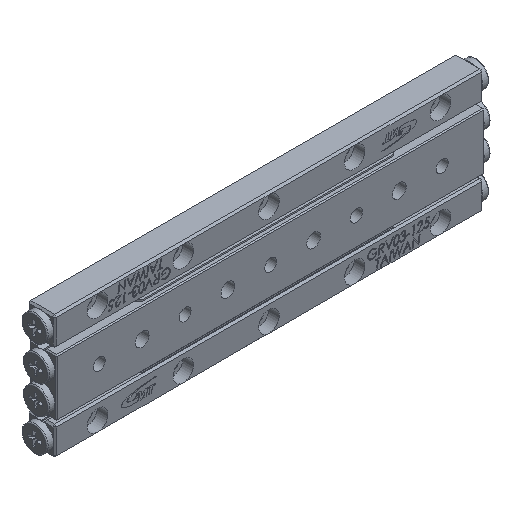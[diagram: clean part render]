
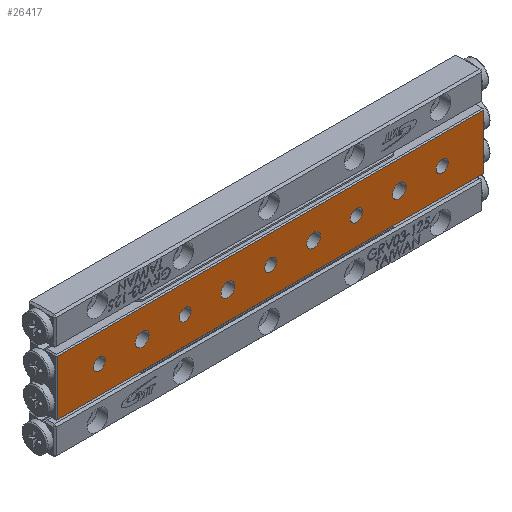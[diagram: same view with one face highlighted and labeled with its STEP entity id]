
A CAD part, isometric view. The second image highlights one B-rep face of the part: STEP entity #26417.
In plain terms, the highlighted planar face has unit normal (0, -1, 0).
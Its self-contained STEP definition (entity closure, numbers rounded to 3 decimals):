
#50 = CARTESIAN_POINT ( 'NONE',  ( -25., 0., 1.75 ) ) ;
#86 = ORIENTED_EDGE ( 'NONE', *, *, #15599, .T. ) ;
#201 = AXIS2_PLACEMENT_3D ( 'NONE', #28750, #31985, #9222 ) ;
#397 = AXIS2_PLACEMENT_3D ( 'NONE', #35226, #37706, #35406 ) ;
#951 = ORIENTED_EDGE ( 'NONE', *, *, #16828, .T. ) ;
#964 = CIRCLE ( 'NONE', #16281, 2. ) ;
#1331 = EDGE_CURVE ( 'NONE', #16930, #16930, #16717, .T. ) ;
#1907 = FACE_BOUND ( 'NONE', #5562, .T. ) ;
#2562 = CIRCLE ( 'NONE', #15385, 1.75 ) ;
#2737 = CARTESIAN_POINT ( 'NONE',  ( 25., 0., 1.75 ) ) ;
#2825 = ORIENTED_EDGE ( 'NONE', *, *, #31251, .T. ) ;
#3554 = AXIS2_PLACEMENT_3D ( 'NONE', #37155, #22670, #11002 ) ;
#4375 = EDGE_CURVE ( 'NONE', #4843, #4843, #35198, .T. ) ;
#4780 = VECTOR ( 'NONE', #8862, 1000. ) ;
#4843 = VERTEX_POINT ( 'NONE', #33717 ) ;
#5159 = FACE_BOUND ( 'NONE', #7951, .T. ) ;
#5562 = EDGE_LOOP ( 'NONE', ( #10691 ) ) ;
#5800 = CARTESIAN_POINT ( 'NONE',  ( -50., 0., 1.75 ) ) ;
#7651 = FACE_OUTER_BOUND ( 'NONE', #19875, .T. ) ;
#7839 = FACE_BOUND ( 'NONE', #26000, .T. ) ;
#7862 = ORIENTED_EDGE ( 'NONE', *, *, #13510, .T. ) ;
#7905 = VERTEX_POINT ( 'NONE', #26673 ) ;
#7951 = EDGE_LOOP ( 'NONE', ( #951 ) ) ;
#8432 = EDGE_LOOP ( 'NONE', ( #14301 ) ) ;
#8628 = CARTESIAN_POINT ( 'NONE',  ( -62.5, 0., -8. ) ) ;
#8666 = VERTEX_POINT ( 'NONE', #5800 ) ;
#8862 = DIRECTION ( 'NONE',  ( 0., 0., -1. ) ) ;
#9222 = DIRECTION ( 'NONE',  ( 0., 0., 1. ) ) ;
#9323 = ORIENTED_EDGE ( 'NONE', *, *, #1331, .T. ) ;
#9363 = EDGE_LOOP ( 'NONE', ( #29957 ) ) ;
#10067 = VERTEX_POINT ( 'NONE', #37342 ) ;
#10447 = VERTEX_POINT ( 'NONE', #19759 ) ;
#10540 = FACE_BOUND ( 'NONE', #8432, .T. ) ;
#10691 = ORIENTED_EDGE ( 'NONE', *, *, #20961, .T. ) ;
#10743 = CARTESIAN_POINT ( 'NONE',  ( -62.5, 0., 8. ) ) ;
#11002 = DIRECTION ( 'NONE',  ( 0., 0., 1. ) ) ;
#11537 = AXIS2_PLACEMENT_3D ( 'NONE', #19606, #25551, #16367 ) ;
#11767 = CARTESIAN_POINT ( 'NONE',  ( 0., 0., 0. ) ) ;
#12516 = AXIS2_PLACEMENT_3D ( 'NONE', #24691, #36497, #30417 ) ;
#13423 = DIRECTION ( 'NONE',  ( 0., 0., 1. ) ) ;
#13510 = EDGE_CURVE ( 'NONE', #36955, #36955, #24737, .T. ) ;
#13640 = ORIENTED_EDGE ( 'NONE', *, *, #21229, .T. ) ;
#13743 = EDGE_LOOP ( 'NONE', ( #86 ) ) ;
#13827 = AXIS2_PLACEMENT_3D ( 'NONE', #31188, #22032, #13423 ) ;
#13952 = VECTOR ( 'NONE', #17265, 1000. ) ;
#14222 = VERTEX_POINT ( 'NONE', #20354 ) ;
#14301 = ORIENTED_EDGE ( 'NONE', *, *, #28852, .T. ) ;
#14807 = CARTESIAN_POINT ( 'NONE',  ( 0., 0., 1.75 ) ) ;
#15385 = AXIS2_PLACEMENT_3D ( 'NONE', #11767, #29159, #29527 ) ;
#15599 = EDGE_CURVE ( 'NONE', #7905, #7905, #964, .T. ) ;
#16281 = AXIS2_PLACEMENT_3D ( 'NONE', #26563, #32452, #20637 ) ;
#16367 = DIRECTION ( 'NONE',  ( 0., 0., 1. ) ) ;
#16661 = FACE_BOUND ( 'NONE', #35320, .T. ) ;
#16717 = CIRCLE ( 'NONE', #201, 2. ) ;
#16828 = EDGE_CURVE ( 'NONE', #25907, #25907, #27935, .T. ) ;
#16930 = VERTEX_POINT ( 'NONE', #22081 ) ;
#17265 = DIRECTION ( 'NONE',  ( 1., 0., 0. ) ) ;
#19016 = EDGE_CURVE ( 'NONE', #10067, #34424, #31627, .T. ) ;
#19350 = PLANE ( 'NONE',  #20872 ) ;
#19491 = ORIENTED_EDGE ( 'NONE', *, *, #20984, .T. ) ;
#19534 = DIRECTION ( 'NONE',  ( 0., 1., 0. ) ) ;
#19606 = CARTESIAN_POINT ( 'NONE',  ( 25., 0., 0. ) ) ;
#19724 = FACE_BOUND ( 'NONE', #9363, .T. ) ;
#19759 = CARTESIAN_POINT ( 'NONE',  ( 62.2, 0., -8. ) ) ;
#19875 = EDGE_LOOP ( 'NONE', ( #29552, #13640, #2825, #25296 ) ) ;
#20354 = CARTESIAN_POINT ( 'NONE',  ( 50., 0., 1.75 ) ) ;
#20637 = DIRECTION ( 'NONE',  ( 0., 0., 1. ) ) ;
#20872 = AXIS2_PLACEMENT_3D ( 'NONE', #30991, #19534, #28320 ) ;
#20961 = EDGE_CURVE ( 'NONE', #23053, #23053, #29209, .T. ) ;
#20984 = EDGE_CURVE ( 'NONE', #14222, #14222, #24332, .T. ) ;
#21229 = EDGE_CURVE ( 'NONE', #34424, #10447, #22242, .T. ) ;
#22032 = DIRECTION ( 'NONE',  ( 0., 1., 0. ) ) ;
#22081 = CARTESIAN_POINT ( 'NONE',  ( -37.5, 0., 2. ) ) ;
#22086 = DIRECTION ( 'NONE',  ( 0., 0., 1. ) ) ;
#22242 = LINE ( 'NONE', #8628, #13952 ) ;
#22378 = CIRCLE ( 'NONE', #13827, 1.75 ) ;
#22472 = CARTESIAN_POINT ( 'NONE',  ( -12.5, 0., 2. ) ) ;
#22670 = DIRECTION ( 'NONE',  ( 0., 1., 0. ) ) ;
#23053 = VERTEX_POINT ( 'NONE', #2737 ) ;
#23553 = VERTEX_POINT ( 'NONE', #27916 ) ;
#23716 = LINE ( 'NONE', #26587, #34397 ) ;
#24332 = CIRCLE ( 'NONE', #3554, 1.75 ) ;
#24592 = DIRECTION ( 'NONE',  ( 0., 1., 0. ) ) ;
#24691 = CARTESIAN_POINT ( 'NONE',  ( -12.5, 0., 0. ) ) ;
#24737 = CIRCLE ( 'NONE', #12516, 2. ) ;
#25296 = ORIENTED_EDGE ( 'NONE', *, *, #27237, .T. ) ;
#25475 = FACE_BOUND ( 'NONE', #30342, .T. ) ;
#25551 = DIRECTION ( 'NONE',  ( 0., 1., 0. ) ) ;
#25843 = ORIENTED_EDGE ( 'NONE', *, *, #4375, .T. ) ;
#25907 = VERTEX_POINT ( 'NONE', #50 ) ;
#26000 = EDGE_LOOP ( 'NONE', ( #19491 ) ) ;
#26212 = DIRECTION ( 'NONE',  ( 0., 0., 1. ) ) ;
#26417 = ADVANCED_FACE ( 'NONE', ( #7651, #28133, #36693, #16661, #5159, #25475, #19724, #10540, #1907, #7839 ), #19350, .F. ) ;
#26563 = CARTESIAN_POINT ( 'NONE',  ( 37.5, 0., 0. ) ) ;
#26587 = CARTESIAN_POINT ( 'NONE',  ( 62.2, 0., 8.3 ) ) ;
#26673 = CARTESIAN_POINT ( 'NONE',  ( 37.5, 0., 2. ) ) ;
#27237 = EDGE_CURVE ( 'NONE', #23553, #10067, #27964, .T. ) ;
#27361 = EDGE_LOOP ( 'NONE', ( #25843 ) ) ;
#27916 = CARTESIAN_POINT ( 'NONE',  ( 62.2, 0., 8. ) ) ;
#27935 = CIRCLE ( 'NONE', #30974, 1.75 ) ;
#27964 = LINE ( 'NONE', #10743, #37288 ) ;
#28133 = FACE_BOUND ( 'NONE', #13743, .T. ) ;
#28320 = DIRECTION ( 'NONE',  ( 0., 0., 1. ) ) ;
#28750 = CARTESIAN_POINT ( 'NONE',  ( -37.5, 0., 0. ) ) ;
#28852 = EDGE_CURVE ( 'NONE', #37717, #37717, #2562, .T. ) ;
#29159 = DIRECTION ( 'NONE',  ( 0., 1., 0. ) ) ;
#29209 = CIRCLE ( 'NONE', #11537, 1.75 ) ;
#29527 = DIRECTION ( 'NONE',  ( 0., 0., 1. ) ) ;
#29552 = ORIENTED_EDGE ( 'NONE', *, *, #19016, .T. ) ;
#29957 = ORIENTED_EDGE ( 'NONE', *, *, #34784, .T. ) ;
#30342 = EDGE_LOOP ( 'NONE', ( #9323 ) ) ;
#30417 = DIRECTION ( 'NONE',  ( 0., 0., 1. ) ) ;
#30670 = CARTESIAN_POINT ( 'NONE',  ( -62.2, 0., -8. ) ) ;
#30974 = AXIS2_PLACEMENT_3D ( 'NONE', #36208, #24592, #22086 ) ;
#30991 = CARTESIAN_POINT ( 'NONE',  ( -62.5, 0., 8.3 ) ) ;
#31188 = CARTESIAN_POINT ( 'NONE',  ( -50., 0., 0. ) ) ;
#31251 = EDGE_CURVE ( 'NONE', #10447, #23553, #23716, .T. ) ;
#31627 = LINE ( 'NONE', #34681, #4780 ) ;
#31755 = DIRECTION ( 'NONE',  ( -1., 0., 0. ) ) ;
#31985 = DIRECTION ( 'NONE',  ( 0., 1., 0. ) ) ;
#32452 = DIRECTION ( 'NONE',  ( 0., 1., 0. ) ) ;
#33717 = CARTESIAN_POINT ( 'NONE',  ( 12.5, 0., 2. ) ) ;
#34397 = VECTOR ( 'NONE', #26212, 1000. ) ;
#34424 = VERTEX_POINT ( 'NONE', #30670 ) ;
#34681 = CARTESIAN_POINT ( 'NONE',  ( -62.2, 0., 8.3 ) ) ;
#34784 = EDGE_CURVE ( 'NONE', #8666, #8666, #22378, .T. ) ;
#35198 = CIRCLE ( 'NONE', #397, 2. ) ;
#35226 = CARTESIAN_POINT ( 'NONE',  ( 12.5, 0., 0. ) ) ;
#35320 = EDGE_LOOP ( 'NONE', ( #7862 ) ) ;
#35406 = DIRECTION ( 'NONE',  ( 0., 0., 1. ) ) ;
#36208 = CARTESIAN_POINT ( 'NONE',  ( -25., 0., 0. ) ) ;
#36497 = DIRECTION ( 'NONE',  ( 0., 1., 0. ) ) ;
#36693 = FACE_BOUND ( 'NONE', #27361, .T. ) ;
#36955 = VERTEX_POINT ( 'NONE', #22472 ) ;
#37155 = CARTESIAN_POINT ( 'NONE',  ( 50., 0., 0. ) ) ;
#37288 = VECTOR ( 'NONE', #31755, 1000. ) ;
#37342 = CARTESIAN_POINT ( 'NONE',  ( -62.2, 0., 8. ) ) ;
#37706 = DIRECTION ( 'NONE',  ( 0., 1., 0. ) ) ;
#37717 = VERTEX_POINT ( 'NONE', #14807 ) ;
